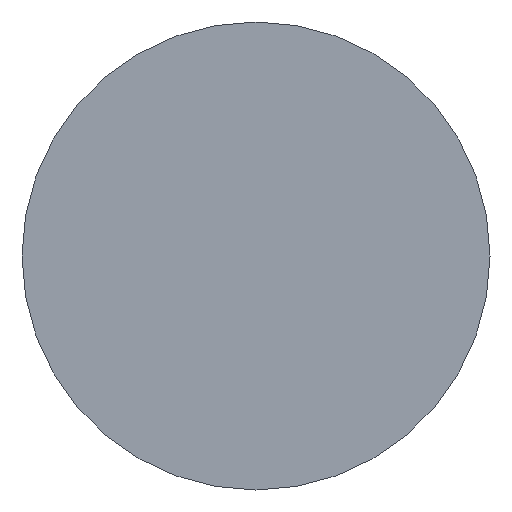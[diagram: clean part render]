
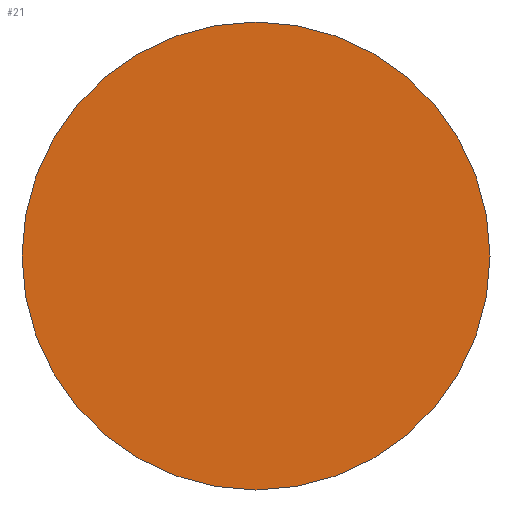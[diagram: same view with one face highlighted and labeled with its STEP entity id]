
A CAD part, front view. The second image highlights one B-rep face of the part: STEP entity #21.
In plain terms, the highlighted planar face has unit normal (0, -1, 0).
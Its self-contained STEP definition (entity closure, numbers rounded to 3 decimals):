
#21 = ADVANCED_FACE ( 'NONE', ( #131 ), #1414, .F. ) ;
#131 = FACE_OUTER_BOUND ( 'NONE', #1467, .T. ) ;
#143 = CIRCLE ( 'NONE', #367, 34.9 ) ;
#205 = CARTESIAN_POINT ( 'NONE',  ( 5.387, -18.543, 69.8 ) ) ;
#312 = DIRECTION ( 'NONE',  ( -1., 0., 0. ) ) ;
#367 = AXIS2_PLACEMENT_3D ( 'NONE', #483, #1451, #576 ) ;
#483 = CARTESIAN_POINT ( 'NONE',  ( 5.387, -18.543, 69.8 ) ) ;
#512 = AXIS2_PLACEMENT_3D ( 'NONE', #205, #914, #312 ) ;
#576 = DIRECTION ( 'NONE',  ( 1., 0., 0. ) ) ;
#579 = EDGE_CURVE ( 'NONE', #1015, #703, #143, .T. ) ;
#580 = DIRECTION ( 'NONE',  ( 1., 0., 0. ) ) ;
#604 = CARTESIAN_POINT ( 'NONE',  ( -29.513, -18.543, 69.8 ) ) ;
#703 = VERTEX_POINT ( 'NONE', #1037 ) ;
#757 = ORIENTED_EDGE ( 'NONE', *, *, #1539, .T. ) ;
#914 = DIRECTION ( 'NONE',  ( 0., 1., 0. ) ) ;
#930 = DIRECTION ( 'NONE',  ( 0., -1., 0. ) ) ;
#1007 = AXIS2_PLACEMENT_3D ( 'NONE', #1073, #930, #580 ) ;
#1015 = VERTEX_POINT ( 'NONE', #604 ) ;
#1019 = ORIENTED_EDGE ( 'NONE', *, *, #579, .T. ) ;
#1037 = CARTESIAN_POINT ( 'NONE',  ( 40.287, -18.543, 69.8 ) ) ;
#1073 = CARTESIAN_POINT ( 'NONE',  ( 5.387, -18.543, 69.8 ) ) ;
#1087 = CIRCLE ( 'NONE', #1007, 34.9 ) ;
#1414 = PLANE ( 'NONE',  #512 ) ;
#1451 = DIRECTION ( 'NONE',  ( 0., -1., 0. ) ) ;
#1467 = EDGE_LOOP ( 'NONE', ( #757, #1019 ) ) ;
#1539 = EDGE_CURVE ( 'NONE', #703, #1015, #1087, .T. ) ;
